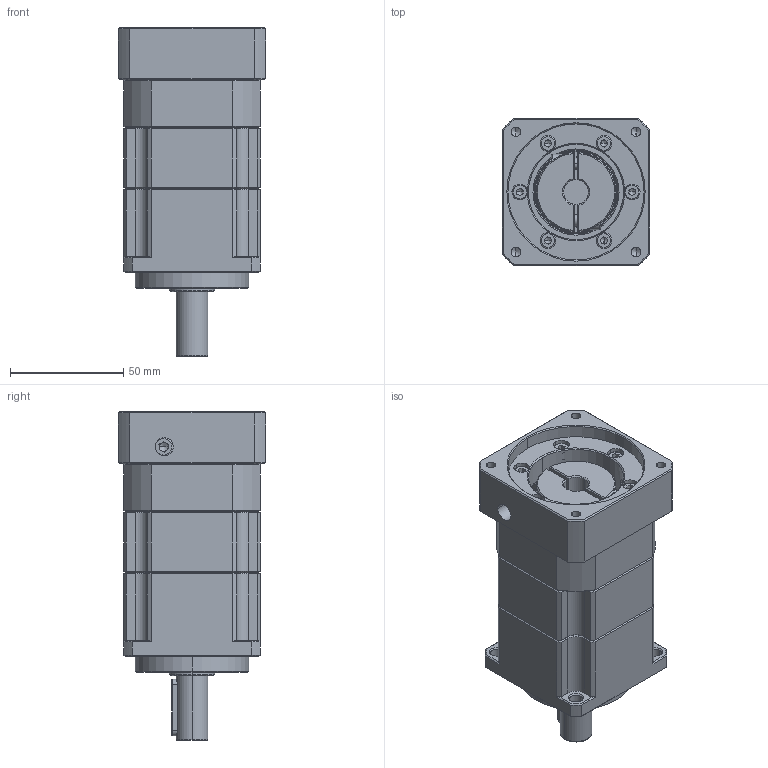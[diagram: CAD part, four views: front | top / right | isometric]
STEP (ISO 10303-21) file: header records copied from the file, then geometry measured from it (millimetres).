
FILE_DESCRIPTION (( 'STEP AP214' ), '1' );
FILE_NAME ('ZPB060-D14-L2-P1-11-60-75-M5.step', '2024-04-23T15:38:46', ( 'Windows 蚚誧' ), ( 'Organization' ), 'SwSTEP 2.0', 'SolidWorks 2016', '' );
FILE_SCHEMA (( 'AUTOMOTIVE_DESIGN' ));
Length unit declared in the file: millimetre
Products named in the file (1): ZPB060-D14-L2-P1-11-60-75-M5
Bounding box: 65 x 65 x 145 mm (x, y, z)
Volume: 336431.8 mm3; surface area: 83446.4 mm2
Topology: 17 solids, 25 shells, 2123 faces, 5897 edges, 3791 vertices
Faces by surface type: plane 1094, bspline 373, cylinder 317, cone 197, torus 96, sphere 46
Entity records: 110293 total; most frequent: CARTESIAN_POINT 36056, ORIENTED_EDGE 11456, DIRECTION 9015, EDGE_CURVE 5728, VERTEX_POINT 3722, VECTOR 3417, LINE 3417, AXIS2_PLACEMENT_3D 2799
